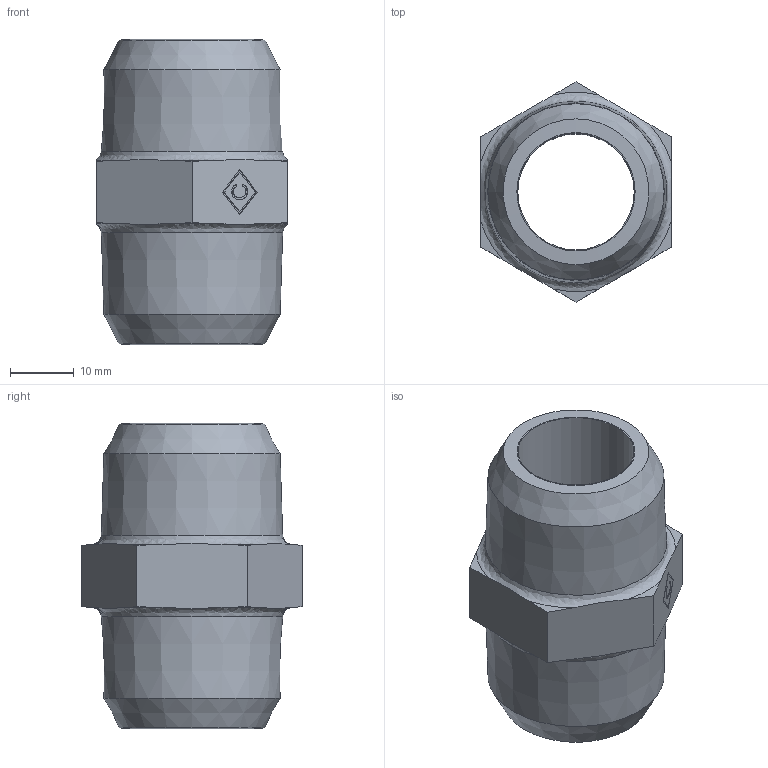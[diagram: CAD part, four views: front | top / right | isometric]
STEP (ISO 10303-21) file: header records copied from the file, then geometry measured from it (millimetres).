
FILE_DESCRIPTION((''),'2;1');
FILE_NAME('P:\Fastrack\53909_CRANE\Crane\Fig.144 Hexagon Nipple\New 0.75 inch\144-0.75.stp','2009-09-14T12:40:07',('btaylor'),(''),'Autodesk Inventor 2008','Autodesk Inventor 2008','');
FILE_SCHEMA(('AUTOMOTIVE_DESIGN { 1 0 10303 214 1 1 1 1 }'));
Length unit declared in the file: millimetre
Products named in the file (1): 144-0.75
Bounding box: 30 x 34.64 x 48 mm (x, y, z)
Volume: 17716.6 mm3; surface area: 7630.6 mm2
Topology: 1 solids, 1 shells, 50 faces, 131 edges, 86 vertices
Faces by surface type: plane 21, cone 18, bspline 11
Entity records: 2006 total; most frequent: CARTESIAN_POINT 936, ORIENTED_EDGE 236, DIRECTION 168, EDGE_CURVE 118, VERTEX_POINT 82, EDGE_LOOP 64, AXIS2_PLACEMENT_3D 62, FACE_OUTER_BOUND 50
